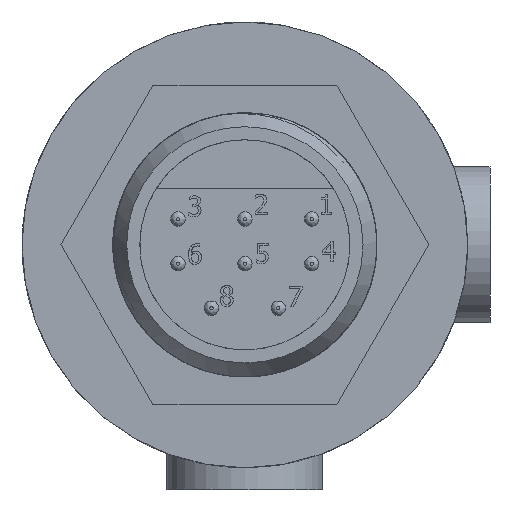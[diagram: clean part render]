
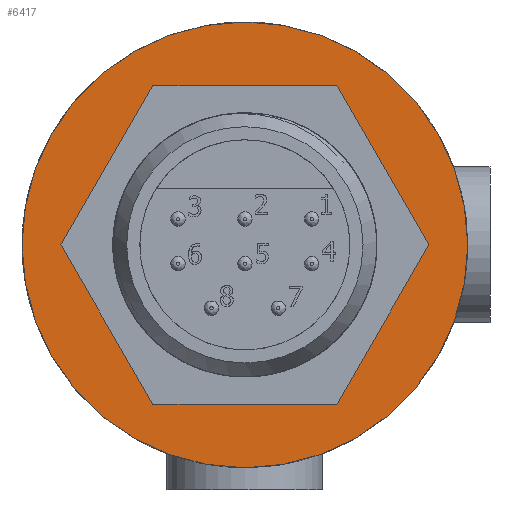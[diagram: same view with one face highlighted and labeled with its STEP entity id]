
A CAD part, left-side view. The second image highlights one B-rep face of the part: STEP entity #6417.
In plain terms, the highlighted planar face has unit normal (-1, 0, 0).
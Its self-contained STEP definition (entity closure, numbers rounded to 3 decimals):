
#422=FACE_BOUND('',#1301,.T.);
#556=PLANE('',#6914);
#899=FACE_OUTER_BOUND('',#1300,.T.);
#1300=EDGE_LOOP('',(#5766));
#1301=EDGE_LOOP('',(#5767));
#1495=CIRCLE('',#6862,20.);
#1521=CIRCLE('',#6908,7.176);
#3166=VERTEX_POINT('',#14246);
#3201=VERTEX_POINT('',#14511);
#4010=EDGE_CURVE('',#3166,#3166,#1495,.T.);
#4067=EDGE_CURVE('',#3201,#3201,#1521,.T.);
#5766=ORIENTED_EDGE('',*,*,#4010,.T.);
#5767=ORIENTED_EDGE('',*,*,#4067,.T.);
#6417=ADVANCED_FACE('',(#899,#422),#556,.T.);
#6862=AXIS2_PLACEMENT_3D('',#14247,#8070,#8071);
#6908=AXIS2_PLACEMENT_3D('',#14513,#8184,#8185);
#6914=AXIS2_PLACEMENT_3D('',#14522,#8198,#8199);
#8070=DIRECTION('center_axis',(-1.,0.,0.));
#8071=DIRECTION('ref_axis',(0.,1.,0.));
#8184=DIRECTION('center_axis',(1.,0.,0.));
#8185=DIRECTION('ref_axis',(0.,0.,1.));
#8198=DIRECTION('center_axis',(-1.,0.,0.));
#8199=DIRECTION('ref_axis',(0.,0.,1.));
#14246=CARTESIAN_POINT('',(0.,-20.,0.));
#14247=CARTESIAN_POINT('Origin',(0.,0.,
0.));
#14511=CARTESIAN_POINT('',(0.,0.,-7.176));
#14513=CARTESIAN_POINT('Origin',(0.,0.,0.));
#14522=CARTESIAN_POINT('Origin',(0.,10.,0.));
